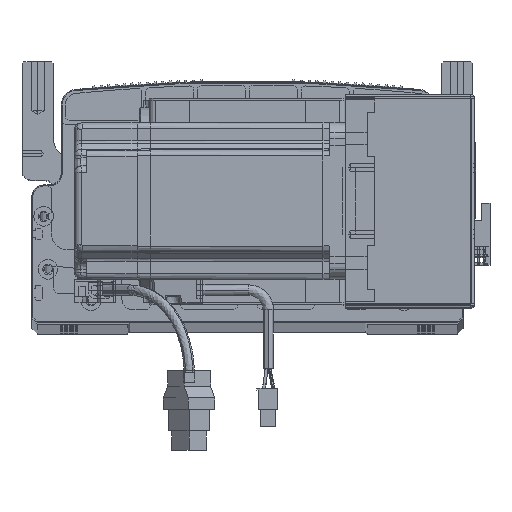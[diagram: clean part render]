
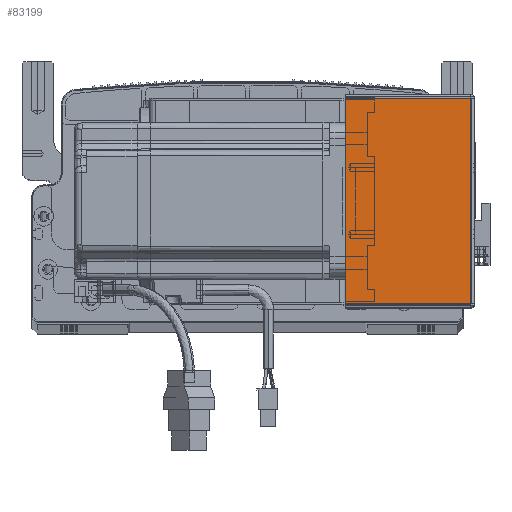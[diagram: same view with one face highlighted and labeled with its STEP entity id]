
A CAD part, top view. The second image highlights one B-rep face of the part: STEP entity #83199.
In plain terms, the highlighted planar face has unit normal (0, 0, 1) as drawn and (0, 0, -1) by its records, which use the part's own axes.
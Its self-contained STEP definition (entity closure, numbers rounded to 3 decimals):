
#2266 = CARTESIAN_POINT ( 'NONE',  ( 64.5, 0., -205.5 ) ) ;
#2890 = LINE ( 'NONE', #49738, #78547 ) ;
#6876 = CARTESIAN_POINT ( 'NONE',  ( 0.737, 0., -205.5 ) ) ;
#10320 = CARTESIAN_POINT ( 'NONE',  ( 0.737, 105.293, -205.5 ) ) ;
#11497 = ORIENTED_EDGE ( 'NONE', *, *, #96571, .F. ) ;
#12104 = EDGE_CURVE ( 'NONE', #75937, #83596, #74807, .T. ) ;
#14180 = DIRECTION ( 'NONE',  ( 0., -1., 0. ) ) ;
#17004 = EDGE_LOOP ( 'NONE', ( #48362, #37547, #18108, #11497 ) ) ;
#17524 = EDGE_CURVE ( 'NONE', #70120, #69037, #20439, .T. ) ;
#17914 = CARTESIAN_POINT ( 'NONE',  ( 64.5, 0.707, -205.5 ) ) ;
#18066 = VECTOR ( 'NONE', #85215, 1000. ) ;
#18108 = ORIENTED_EDGE ( 'NONE', *, *, #12104, .T. ) ;
#19941 = DIRECTION ( 'NONE',  ( 1., 0., 0. ) ) ;
#20439 = LINE ( 'NONE', #6876, #39437 ) ;
#27298 = DIRECTION ( 'NONE',  ( 1., 0., 0. ) ) ;
#36212 = LINE ( 'NONE', #97747, #92954 ) ;
#37547 = ORIENTED_EDGE ( 'NONE', *, *, #39317, .T. ) ;
#39317 = EDGE_CURVE ( 'NONE', #70120, #75937, #2890, .T. ) ;
#39437 = VECTOR ( 'NONE', #14180, 1000. ) ;
#46751 = DIRECTION ( 'NONE',  ( 1., 0., 0. ) ) ;
#48362 = ORIENTED_EDGE ( 'NONE', *, *, #17524, .F. ) ;
#48669 = DIRECTION ( 'NONE',  ( 0., 0., 1. ) ) ;
#49738 = CARTESIAN_POINT ( 'NONE',  ( 0., 105.293, -205.5 ) ) ;
#58956 = FACE_OUTER_BOUND ( 'NONE', #17004, .T. ) ;
#69037 = VERTEX_POINT ( 'NONE', #91269 ) ;
#70120 = VERTEX_POINT ( 'NONE', #10320 ) ;
#71523 = PLANE ( 'NONE',  #89757 ) ;
#74807 = LINE ( 'NONE', #2266, #18066 ) ;
#75937 = VERTEX_POINT ( 'NONE', #90955 ) ;
#78547 = VECTOR ( 'NONE', #27298, 1000. ) ;
#79444 = CARTESIAN_POINT ( 'NONE',  ( 0., 0., -205.5 ) ) ;
#83199 = ADVANCED_FACE ( 'NONE', ( #58956 ), #71523, .F. ) ;
#83596 = VERTEX_POINT ( 'NONE', #17914 ) ;
#85215 = DIRECTION ( 'NONE',  ( 0., -1., 0. ) ) ;
#89757 = AXIS2_PLACEMENT_3D ( 'NONE', #79444, #48669, #19941 ) ;
#90955 = CARTESIAN_POINT ( 'NONE',  ( 64.5, 105.293, -205.5 ) ) ;
#91269 = CARTESIAN_POINT ( 'NONE',  ( 0.737, 0.707, -205.5 ) ) ;
#92954 = VECTOR ( 'NONE', #46751, 1000. ) ;
#96571 = EDGE_CURVE ( 'NONE', #69037, #83596, #36212, .T. ) ;
#97747 = CARTESIAN_POINT ( 'NONE',  ( 0., 0.707, -205.5 ) ) ;
